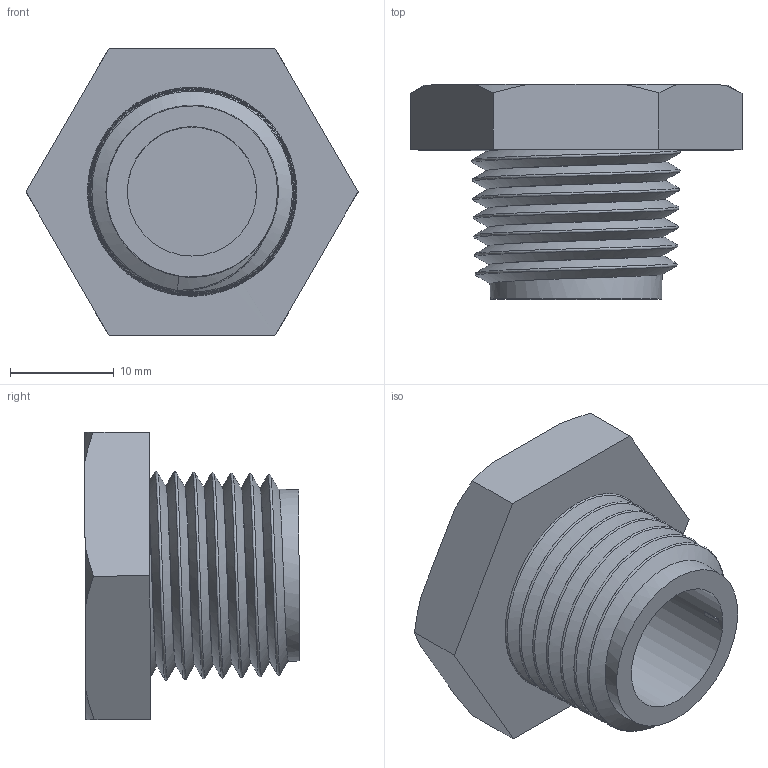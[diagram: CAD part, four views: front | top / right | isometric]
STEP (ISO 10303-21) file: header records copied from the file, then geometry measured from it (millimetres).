
FILE_DESCRIPTION(/* description */ ('Alibre Inc.'),/* implementation_level */ '2;1');
FILE_NAME(/* name */ 'export0',/* time_stamp */ '2016-05-14T10:06:41-04:00',/* author */ (''),/* organization */ (''),/* preprocessor_version */ 'ST-DEVELOPER v14',/* originating_system */ 'Alibre',/* authorisation */ '');
FILE_SCHEMA (('CONFIG_CONTROL_DESIGN'));
Length unit declared in the file: inch
Products named in the file (1): ID_1
Bounding box: 32 x 20.7 x 27.74 mm (x, y, z)
Volume: 6168.2 mm3; surface area: 3871.8 mm2
Topology: 1 solids, 1 shells, 38 faces, 118 edges, 85 vertices
Faces by surface type: cone 14, bspline 12, plane 11, cylinder 1
Full cylindrical faces by diameter (mm): 12.47 x1
Entity records: 5959 total; most frequent: CARTESIAN_POINT 5175, ORIENTED_EDGE 186, EDGE_CURVE 93, DIRECTION 72, VERTEX_POINT 69, B_SPLINE_CURVE_WITH_KNOTS 46, EDGE_LOOP 36, FACE_BOUND 36
